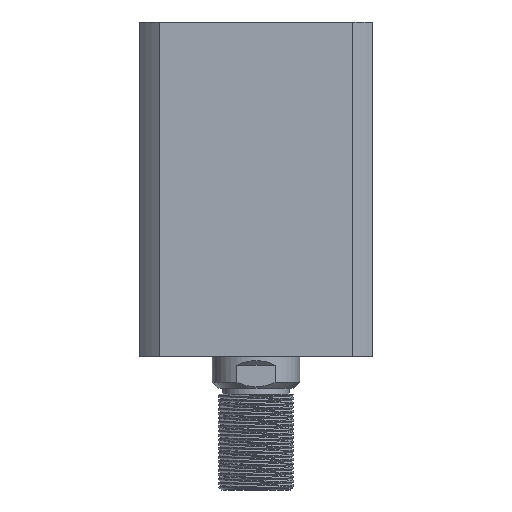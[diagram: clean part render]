
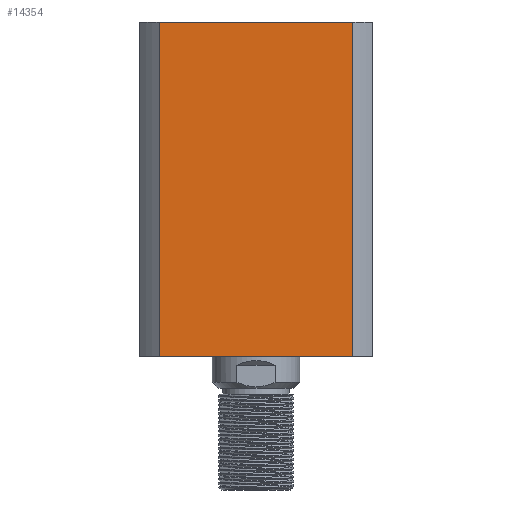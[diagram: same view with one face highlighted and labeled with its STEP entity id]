
A CAD part, left-side view. The second image highlights one B-rep face of the part: STEP entity #14354.
In plain terms, the highlighted planar face has unit normal (-1, 0, 0).
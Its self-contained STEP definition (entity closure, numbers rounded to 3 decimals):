
#644 = VECTOR ( 'NONE', #3028, 1000. ) ;
#1172 = CARTESIAN_POINT ( 'NONE',  ( -40., 33.226, -57.5 ) ) ;
#2352 = FACE_OUTER_BOUND ( 'NONE', #2883, .T. ) ;
#2566 = CARTESIAN_POINT ( 'NONE',  ( -40., 33.226, -57.5 ) ) ;
#2625 = LINE ( 'NONE', #14049, #644 ) ;
#2844 = CARTESIAN_POINT ( 'NONE',  ( -40., 33.226, 57.5 ) ) ;
#2883 = EDGE_LOOP ( 'NONE', ( #4372, #16751, #11385, #6358 ) ) ;
#3028 = DIRECTION ( 'NONE',  ( 0., 0., -1. ) ) ;
#3447 = LINE ( 'NONE', #2566, #11682 ) ;
#4372 = ORIENTED_EDGE ( 'NONE', *, *, #11110, .T. ) ;
#4564 = CARTESIAN_POINT ( 'NONE',  ( -40., 33.226, 57.5 ) ) ;
#6358 = ORIENTED_EDGE ( 'NONE', *, *, #15481, .T. ) ;
#6879 = DIRECTION ( 'NONE',  ( 0., 0., -1. ) ) ;
#7324 = PLANE ( 'NONE',  #16161 ) ;
#7629 = CARTESIAN_POINT ( 'NONE',  ( -40., -33.226, 57.5 ) ) ;
#9242 = VERTEX_POINT ( 'NONE', #1172 ) ;
#9356 = DIRECTION ( 'NONE',  ( 0., -1., 0. ) ) ;
#9437 = LINE ( 'NONE', #16005, #13345 ) ;
#9470 = LINE ( 'NONE', #13796, #14218 ) ;
#11110 = EDGE_CURVE ( 'NONE', #9242, #15240, #3447, .T. ) ;
#11385 = ORIENTED_EDGE ( 'NONE', *, *, #17710, .F. ) ;
#11619 = EDGE_CURVE ( 'NONE', #16046, #15240, #2625, .T. ) ;
#11682 = VECTOR ( 'NONE', #9356, 1000. ) ;
#11895 = DIRECTION ( 'NONE',  ( 0., -1., 0. ) ) ;
#13189 = VERTEX_POINT ( 'NONE', #2844 ) ;
#13224 = CARTESIAN_POINT ( 'NONE',  ( -40., -33.226, -57.5 ) ) ;
#13345 = VECTOR ( 'NONE', #11895, 1000. ) ;
#13796 = CARTESIAN_POINT ( 'NONE',  ( -40., 33.226, 57.5 ) ) ;
#14049 = CARTESIAN_POINT ( 'NONE',  ( -40., -33.226, 57.5 ) ) ;
#14179 = DIRECTION ( 'NONE',  ( 1., 0., 0. ) ) ;
#14218 = VECTOR ( 'NONE', #6879, 1000. ) ;
#14240 = DIRECTION ( 'NONE',  ( 0., 1., 0. ) ) ;
#14354 = ADVANCED_FACE ( 'NONE', ( #2352 ), #7324, .F. ) ;
#15240 = VERTEX_POINT ( 'NONE', #13224 ) ;
#15481 = EDGE_CURVE ( 'NONE', #13189, #9242, #9470, .T. ) ;
#16005 = CARTESIAN_POINT ( 'NONE',  ( -40., 33.226, 57.5 ) ) ;
#16046 = VERTEX_POINT ( 'NONE', #7629 ) ;
#16161 = AXIS2_PLACEMENT_3D ( 'NONE', #4564, #14179, #14240 ) ;
#16751 = ORIENTED_EDGE ( 'NONE', *, *, #11619, .F. ) ;
#17710 = EDGE_CURVE ( 'NONE', #13189, #16046, #9437, .T. ) ;
